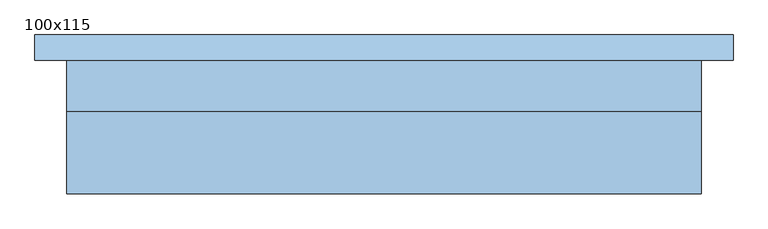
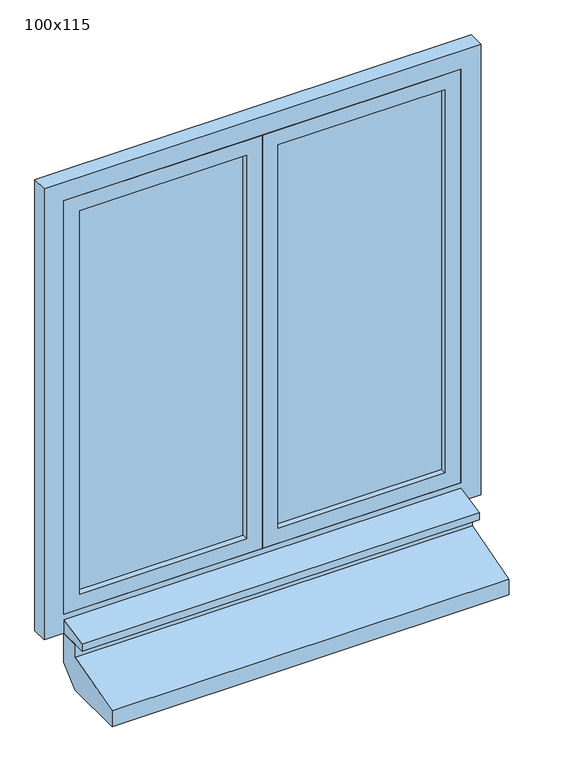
"""IFC4 building model written with IfcOpenShell, lengths in millimetres: window geometry, FR_2 Vantaux Appui Béton : 100x115."""

from ifc_helpers import new_model, si_unit, frame, origin, place, context, project, spatial, polyline, outline, extrude, source, transform, mapped, element, save


def window_100x115_8c406891(model_context):
    return source(origin(), model_context, "Body", "SweptSolid", [
        extrude(outline(polyline([(310.0, 600.0), (360.0, 600.0), (360.0, 522.1), (310.0, 478.8), (150.0, 478.8), (150.0, 520.2757914), (310.0, 566.1208064), (310.0, 600.0)])), frame((-495.0, 0.0, 0.0), z_axis=(1.0, 0.0, 0.0), x_axis=(0.0, 1.0, 0.0)), (0.0, 0.0, 1.0), 1000.0),
        extrude(outline(polyline([(280.0, 618.3503849), (360.0, 635.329923), (360.0, 600.0), (280.0, 600.0), (280.0, 618.3503849)])), frame((-495.0, 0.0, 0.0), z_axis=(1.0, 0.0, 0.0), x_axis=(0.0, 1.0, 0.0)), (0.0, 0.0, 1.0), 1000.0),
        extrude(outline(polyline([(1799.9437186, -545.0), (600.0, -545.0), (600.0, 555.0), (1799.9437186, 555.0), (1799.9437186, -545.0)]), holes=[polyline([(650.0, -495.0), (1749.9437186, -495.0), (1749.9437186, 505.0), (650.0, 505.0), (650.0, -495.0)])]), frame((0.0, 360.0, 0.0), z_axis=(0.0, 1.0, 0.0), x_axis=(0.0, 0.0, 1.0)), (0.0, 0.0, 1.0), 40.0),
        extrude(outline(polyline([(1749.9437186, 505.0), (1749.9437186, 5.0), (650.0, 5.0), (650.0, 505.0), (1749.9437186, 505.0)]), holes=[polyline([(1709.9437186, 45.0), (1709.9437186, 465.0), (690.0, 465.0), (690.0, 45.0), (1709.9437186, 45.0)])]), frame((0.0, 360.0, 0.0), z_axis=(0.0, 1.0, 0.0), x_axis=(0.0, 0.0, 1.0)), (0.0, 0.0, 1.0), 40.0),
        extrude(outline(polyline([(1749.9437186, 5.0), (1749.9437186, -495.0), (650.0, -495.0), (650.0, 5.0), (1749.9437186, 5.0)]), holes=[polyline([(1709.9437186, -455.0), (1709.9437186, -35.0), (690.0, -35.0), (690.0, -455.0), (1709.9437186, -455.0)])]), frame((0.0, 360.0, 0.0), z_axis=(0.0, 1.0, 0.0), x_axis=(0.0, 0.0, 1.0)), (0.0, 0.0, 1.0), 40.0),
        extrude(outline(polyline([(465.0, 385.0), (465.0, 374.9786326), (45.0, 374.9786326), (45.0, 385.0), (465.0, 385.0)])), frame((0.0, 0.0, 690.0), z_axis=(0.0, 0.0, 1.0), x_axis=(1.0, 0.0, 0.0)), (0.0, 0.0, 1.0), 1019.9437186),
        extrude(outline(polyline([(-455.0, 385.0), (-35.0, 385.0), (-35.0, 374.9786326), (-455.0, 374.9786326), (-455.0, 385.0)])), frame((0.0, 0.0, 690.0), z_axis=(0.0, 0.0, 1.0), x_axis=(1.0, 0.0, 0.0)), (0.0, 0.0, 1.0), 1019.9437186),
    ])


if __name__ == "__main__":
    model = new_model("IFC4")
    model_context = context("Model", 3, world=origin())
    ifc_project = project(units=[si_unit("LENGTHUNIT", "METRE", prefix="MILLI")], contexts=[model_context])
    site = spatial("IfcSite", under=ifc_project)
    building = spatial("IfcBuilding", under=site)
    placement = place(None, origin())
    window_100x115_shape = window_100x115_8c406891(model_context)
    element("IfcWindow", 1, ObjectType="FR_2 Vantaux Appui Béton : 100x115", at=placement, inside=building, context=model_context, shape_type="MappedRepresentation", body=[
        mapped(window_100x115_shape, transform((0.0, 0.0, 0.0), x_axis=(1.0, 0.0, 0.0), y_axis=(0.0, 1.0, 0.0), z_axis=(0.0, 0.0, 1.0))),
    ])
    save(model, "model.ifc")
